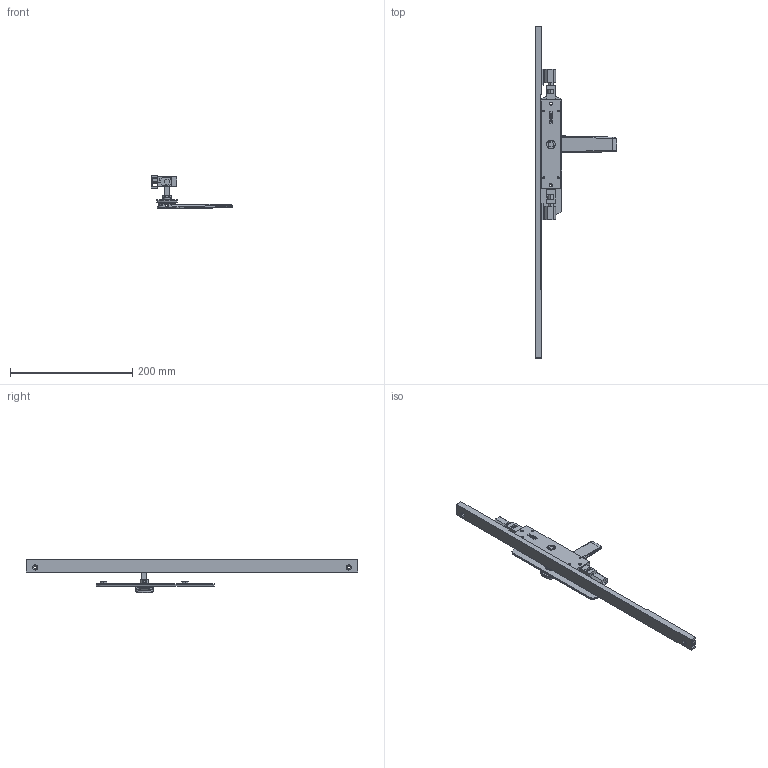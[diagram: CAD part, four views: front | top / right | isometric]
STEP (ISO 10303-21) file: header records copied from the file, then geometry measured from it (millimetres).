
FILE_DESCRIPTION (( 'STEP AP214' ), '1' );
FILE_NAME ('TPL-W-APC-603-U 28Oct2024.STEP', '2024-10-28T03:12:55', ( '' ), ( '' ), 'SwSTEP 2.0', 'SolidWorks 2023', '' );
FILE_SCHEMA (( 'AUTOMOTIVE_DESIGN' ));
Length unit declared in the file: millimetre
Products named in the file (18): Copy of TPLGen2 lock body non-keyed^Copy of TPLGen2 lock body non-keyed assembly_TPL-W-APC-103 18Oct2024; Copy of TPLGen2 push rod - simplified^Copy of TPLGen2 lock body non-keyed assembly_TPL-W-APC-103 18Oct2024_Female thread M10; COV-115-C Cover C suit TPLGen2 standard range AU; Adapter D - simplfied^TPL-W-APC-103 18Oct2024; Copy of LKC-516 Escutcheon plate unkeyed 195mm long zinc - simplified^Copy of TPGen2 handle non-keyed short zinc - simplified_TPL-W-APC-103 18Oct2024; Copy of LKC-585 Rotator body zinc^Copy of TPGen2 handle non-keyed short zinc - simplified_TPL-W-APC-103 18Oct2024; Copy of Copy of LKC-531 Lock twinpoint transmission rod wood system^TPL-W-APC-103 18Oct2024_Standard Range 2891.7mm; Adapter C - simplfied^TPL-W-APC-103 18Oct2024; TPL-W-APC-603-U 28Oct2024; Copy of LKC-505 Swing handle zinc - simplified^Copy of TPGen2 handle non-keyed short zinc - simplified_TPL-W-APC-103 18Oct2024; Copy of Copy of Copy of LKC-531 Lock twinpoint transmission rod wood system^TPL-W-APC-103 18Oct2024_Standard Range 2891.7mm; Copy of TPLGen2 lock body non-keyed assembly^TPL-W-APC-103 18Oct2024_Bolts retracted; Copy of LKC-584 Pivot body zinc - simplified^Copy of TPGen2 handle non-keyed short zinc - simplified_TPL-W-APC-103 18Oct2024; Copy of COV-115-B Cover B suit TPLGen2 standard range AU with hinge holes^TPL-W-APC-103 18Oct2024_2870mm; Copy of LKC-586 Spindle square 8mm with M4 hole^Copy of TPGen2 handle non-keyed short zinc - simplified_TPL-W-APC-103 18Oct2024_37mm; Bolt(2)^TPL-W-APC-103 18Oct2024; Copy of COV-115-A Cover A suit TPLGen2 standard range AU with hinge holes^TPL-W-APC-103 18Oct2024_1335mm; Copy of TPGen2 handle non-keyed short zinc - simplified^TPL-W-APC-103 18Oct2024_Left
Assembly tree (15 placements, depth 3):
  TPL-W-APC-603-U 28Oct2024
    Copy of TPLGen2 lock body non-keyed assembly^TPL-W-APC-103 18Oct2024_Bolts retracted
      Copy of TPLGen2 lock body non-keyed^Copy of TPLGen2 lock body non-keyed assembly_TPL-W-APC-103 18Oct2024
      Copy of TPLGen2 push rod - simplified^Copy of TPLGen2 lock body non-keyed assembly_TPL-W-APC-103 18Oct2024_Female thread M10  x2
    Copy of TPGen2 handle non-keyed short zinc - simplified^TPL-W-APC-103 18Oct2024_Left
      Copy of LKC-516 Escutcheon plate unkeyed 195mm long zinc - simplified^Copy of TPGen2 handle non-keyed short zinc - simplified_TPL-W-APC-103 18Oct2024
      Copy of LKC-505 Swing handle zinc - simplified^Copy of TPGen2 handle non-keyed short zinc - simplified_TPL-W-APC-103 18Oct2024
      Copy of LKC-585 Rotator body zinc^Copy of TPGen2 handle non-keyed short zinc - simplified_TPL-W-APC-103 18Oct2024
      Copy of LKC-586 Spindle square 8mm with M4 hole^Copy of TPGen2 handle non-keyed short zinc - simplified_TPL-W-APC-103 18Oct2024_37mm
      Copy of LKC-584 Pivot body zinc - simplified^Copy of TPGen2 handle non-keyed short zinc - simplified_TPL-W-APC-103 18Oct2024
    COV-115-C Cover C suit TPLGen2 standard range AU
    Copy of Copy of LKC-531 Lock twinpoint transmission rod wood system^TPL-W-APC-103 18Oct2024_Standard Range 2891.7mm
    Copy of Copy of Copy of LKC-531 Lock twinpoint transmission rod wood system^TPL-W-APC-103 18Oct2024_Standard Range 2891.7mm
    Adapter D - simplfied^TPL-W-APC-103 18Oct2024
    Adapter C - simplfied^TPL-W-APC-103 18Oct2024
  Copy of COV-115-B Cover B suit TPLGen2 standard range AU with hinge holes^TPL-W-APC-103 18Oct2024_2870mm
  Bolt(2)^TPL-W-APC-103 18Oct2024
  Copy of COV-115-A Cover A suit TPLGen2 standard range AU with hinge holes^TPL-W-APC-103 18Oct2024_1335mm
Bounding box: 134.12 x 544 x 55.06 mm (x, y, z)
Volume: 203047.4 mm3; surface area: 113983.9 mm2
Topology: 13 solids, 13 shells, 843 faces, 2076 edges, 1288 vertices
Faces by surface type: plane 300, bspline 241, cylinder 182, cone 66, torus 46, sphere 8
Entity records: 30415 total; most frequent: CARTESIAN_POINT 12515, ORIENTED_EDGE 3960, DIRECTION 3150, EDGE_CURVE 1980, VERTEX_POINT 1228, AXIS2_PLACEMENT_3D 1141, EDGE_LOOP 890, LINE 868
